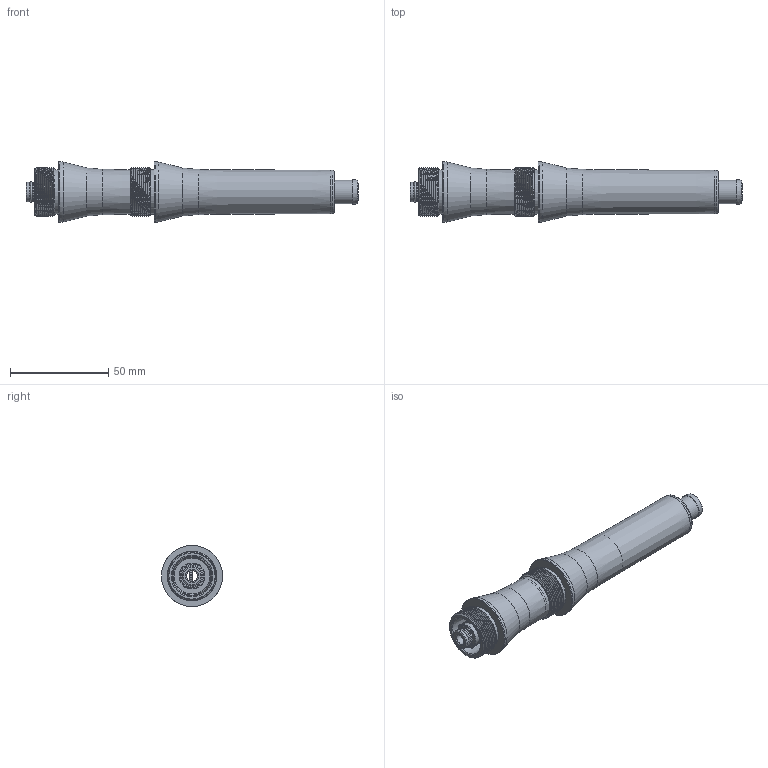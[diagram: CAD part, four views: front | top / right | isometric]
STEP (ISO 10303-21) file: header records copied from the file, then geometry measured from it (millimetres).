
FILE_DESCRIPTION( ( 'Unknown' ), '1' );
FILE_NAME( 'C:/Documents and Settings/Owner/官帕 拳搁/VC253S.stp', 'Unknown', ( 'Unknown' ), ( 'Unknown' ), 'PSStep 10.0', 'Unknown', ' ' );
FILE_SCHEMA( ( 'AUTOMOTIVE_DESIGN { 1 0 10303 214 1 1 1 1 }' ) );
Length unit declared in the file: millimetre
Products named in the file (8): Assem1; VC253; Stop ring; Silencer Cover-253(Åõã; Sponge; Silencer Cover End Cap-253(癱
Bounding box: 168.6 x 31 x 31 mm (x, y, z)
Volume: 75866.1 mm3; surface area: 60702.2 mm2
Topology: 14 solids, 14 shells, 622 faces, 1322 edges, 782 vertices
Faces by surface type: plane 208, cylinder 184, torus 152, bspline 40, cone 30, sphere 8
Full cylindrical faces by diameter (mm): 5.509 x2, 8.2 x2, 8.4 x2, 8.423 x2, 9 x8, 9.6 x2, 9.609 x2, 9.9 x4, 10.4 x2, 11.52 x2, 12 x30, 12.1 x2, 13 x2, 13.2 x2, 13.408 x2, 13.8 x2, 14 x2, 16 x2, 18 x2, 19 x8, 22 x2, 22.5 x2, 31 x2
Entity records: 12321 total; most frequent: CARTESIAN_POINT 3575, DIRECTION 1423, ORIENTED_EDGE 1068, AXIS2_PLACEMENT_3D 613, EDGE_CURVE 534, EDGE_LOOP 438, FACE_OUTER_BOUND 382, VERTEX_POINT 370
